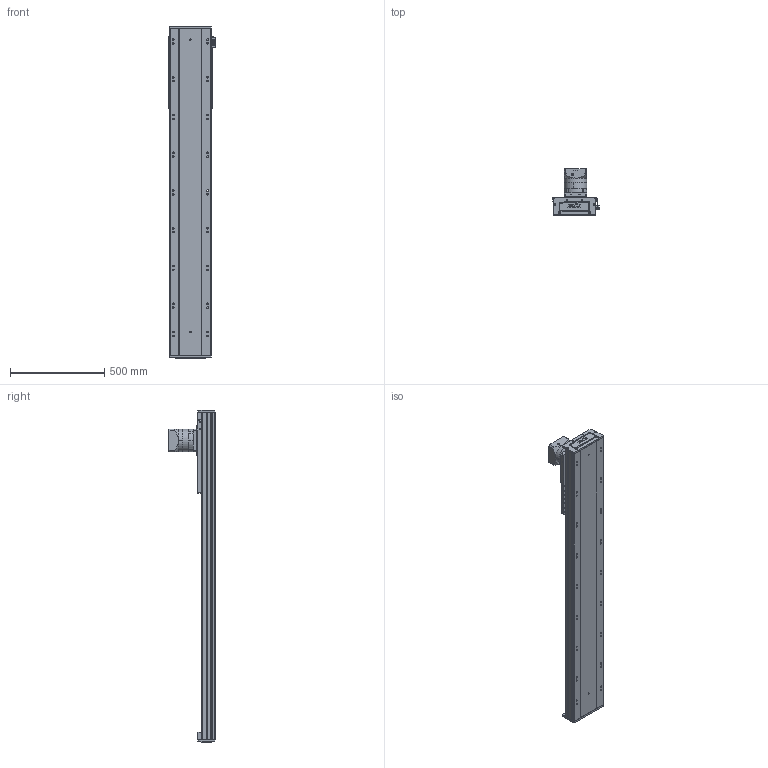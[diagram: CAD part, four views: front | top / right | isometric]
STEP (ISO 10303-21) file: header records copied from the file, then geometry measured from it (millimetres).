
FILE_DESCRIPTION (( 'STEP AP203' ), '1' );
FILE_NAME ('RY220-C-300-UK.SLDASM_1250.step', '2022-08-01T05:59:12', ( '' ), ( '' ), 'SwSTEP 2.0', 'SolidWorks 2016', '' );
FILE_SCHEMA (( 'CONFIG_CONTROL_DESIGN' ));
Length unit declared in the file: millimetre
Products named in the file (10): RY220-C-300-UK.SLDASM_1250; PF115L1-S2-22-58-110-145-M8; 覜茼ん674; RY220喘沭綴裔啣; RY140直线电机感应器674光电安装座; RY220喘沭賑輸; RY220-齿条模组电机安装板; RY220菁釱MK-300_1250; 滅袉蝶輸ㄗG412隅秶ㄘ; RY220喘沭俋离覜茼え
Assembly tree (12 placements, depth 2):
  RY220-C-300-UK.SLDASM_1250
    RY220菁釱MK-300_1250
    RY220喘沭賑輸
    RY220-齿条模组电机安装板
    PF115L1-S2-22-58-110-145-M8
    RY220喘沭綴裔啣  x2
    滅袉蝶輸ㄗG412隅秶ㄘ  x2
    RY140直线电机感应器674光电安装座
    覜茼ん674  x2
    RY220喘沭俋离覜茼え
Bounding box: 247 x 244.5 x 1759 mm (x, y, z)
Volume: 13740997.7 mm3; surface area: 2724159.2 mm2
Topology: 18 solids, 26 shells, 2024 faces, 5427 edges, 3446 vertices
Faces by surface type: cylinder 931, plane 751, cone 180, bspline 162
Entity records: 64013 total; most frequent: CARTESIAN_POINT 17598, DIRECTION 9483, ORIENTED_EDGE 9394, EDGE_CURVE 4697, AXIS2_PLACEMENT_3D 3599, VERTEX_POINT 3072, EDGE_LOOP 2301, LINE 2285
